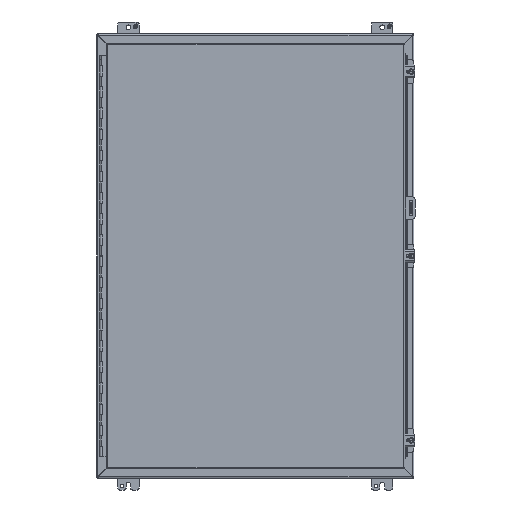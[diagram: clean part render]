
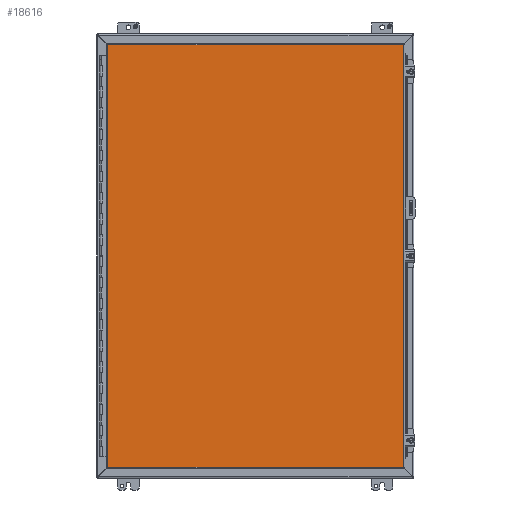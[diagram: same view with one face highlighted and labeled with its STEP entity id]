
A CAD part, front view. The second image highlights one B-rep face of the part: STEP entity #18616.
In plain terms, the highlighted planar face has unit normal (0, -1, 0).
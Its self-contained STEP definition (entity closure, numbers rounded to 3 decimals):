
#1324=LINE('',#27894,#3152);
#1325=LINE('',#27897,#3153);
#1326=LINE('',#27899,#3154);
#1327=LINE('',#27901,#3155);
#3152=VECTOR('',#22584,1000.);
#3153=VECTOR('',#22585,1000.);
#3154=VECTOR('',#22586,1000.);
#3155=VECTOR('',#22587,1000.);
#5476=ORIENTED_EDGE('',*,*,#10724,.T.);
#5477=ORIENTED_EDGE('',*,*,#10725,.T.);
#5478=ORIENTED_EDGE('',*,*,#10726,.T.);
#5479=ORIENTED_EDGE('',*,*,#10727,.T.);
#10724=EDGE_CURVE('',#13409,#13410,#1324,.T.);
#10725=EDGE_CURVE('',#13410,#13411,#1325,.T.);
#10726=EDGE_CURVE('',#13411,#13412,#1326,.T.);
#10727=EDGE_CURVE('',#13412,#13409,#1327,.T.);
#13409=VERTEX_POINT('',#27895);
#13410=VERTEX_POINT('',#27896);
#13411=VERTEX_POINT('',#27898);
#13412=VERTEX_POINT('',#27900);
#15552=EDGE_LOOP('',(#5476,#5477,#5478,#5479));
#16752=FACE_BOUND('',#15552,.T.);
#17866=PLANE('',#20489);
#18616=ADVANCED_FACE('',(#16752),#17866,.T.);
#20489=AXIS2_PLACEMENT_3D('',#27893,#22582,#22583);
#22582=DIRECTION('',(0.,-1.,0.));
#22583=DIRECTION('',(0.,0.,-1.));
#22584=DIRECTION('',(0.,0.,-1.));
#22585=DIRECTION('',(1.,0.,0.));
#22586=DIRECTION('',(0.,0.,1.));
#22587=DIRECTION('',(-1.,0.,0.));
#27893=CARTESIAN_POINT('',(-355.244,0.,-507.86));
#27894=CARTESIAN_POINT('',(-355.244,0.,507.86));
#27895=CARTESIAN_POINT('',(-355.244,0.,507.86));
#27896=CARTESIAN_POINT('',(-355.244,0.,-507.86));
#27897=CARTESIAN_POINT('',(-355.244,0.,-507.86));
#27898=CARTESIAN_POINT('',(355.244,0.,-507.86));
#27899=CARTESIAN_POINT('',(355.244,0.,-507.86));
#27900=CARTESIAN_POINT('',(355.244,0.,507.86));
#27901=CARTESIAN_POINT('',(355.244,0.,507.86));
